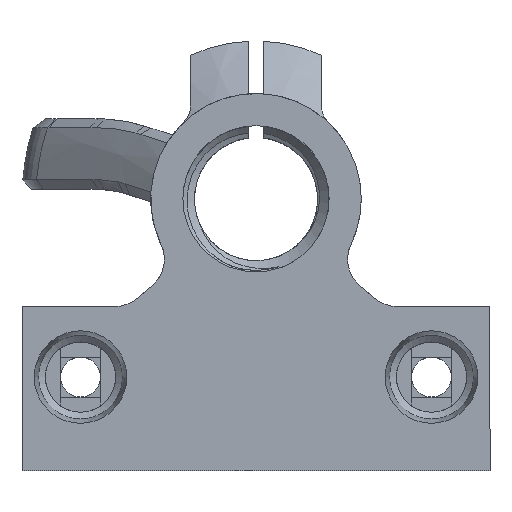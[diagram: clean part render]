
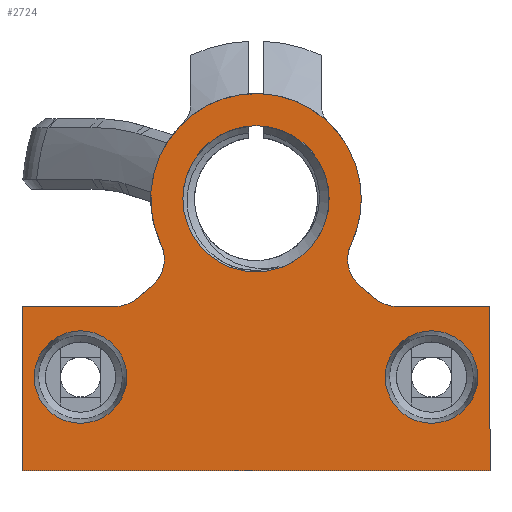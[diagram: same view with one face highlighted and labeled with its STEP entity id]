
A CAD part, top view. The second image highlights one B-rep face of the part: STEP entity #2724.
In plain terms, the highlighted planar face has unit normal (0, 0, 1).
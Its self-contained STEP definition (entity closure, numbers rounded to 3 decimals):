
#79=FACE_BOUND('',#556,.T.);
#80=FACE_BOUND('',#557,.T.);
#81=FACE_BOUND('',#558,.T.);
#275=PLANE('',#2950);
#395=FACE_OUTER_BOUND('',#555,.T.);
#555=EDGE_LOOP('',(#2347,#2348,#2349,#2350,#2351,#2352,#2353,#2354,#2355,
#2356,#2357,#2358,#2359));
#556=EDGE_LOOP('',(#2360));
#557=EDGE_LOOP('',(#2361));
#558=EDGE_LOOP('',(#2362));
#668=LINE('',#3807,#859);
#683=LINE('',#3925,#874);
#685=LINE('',#3954,#876);
#754=LINE('',#5779,#945);
#756=LINE('',#5783,#947);
#758=LINE('',#5787,#949);
#760=LINE('',#5790,#951);
#859=VECTOR('',#3187,10.);
#874=VECTOR('',#3234,10.);
#876=VECTOR('',#3242,10.);
#945=VECTOR('',#3485,10.);
#947=VECTOR('',#3489,10.);
#949=VECTOR('',#3493,10.);
#951=VECTOR('',#3497,10.);
#1002=CIRCLE('',#2805,3.952);
#1016=CIRCLE('',#2835,3.952);
#1018=CIRCLE('',#2838,3.);
#1020=CIRCLE('',#2842,3.);
#1025=CIRCLE('',#2850,9.);
#1027=CIRCLE('',#2852,9.);
#1029=CIRCLE('',#2855,3.);
#1030=CIRCLE('',#2858,3.);
#1035=CIRCLE('',#2868,6.25);
#1104=VERTEX_POINT('',#3704);
#1130=VERTEX_POINT('',#3788);
#1133=VERTEX_POINT('',#3795);
#1134=VERTEX_POINT('',#3797);
#1137=VERTEX_POINT('',#3805);
#1141=VERTEX_POINT('',#3832);
#1158=VERTEX_POINT('',#3903);
#1160=VERTEX_POINT('',#3908);
#1163=VERTEX_POINT('',#3915);
#1164=VERTEX_POINT('',#3917);
#1166=VERTEX_POINT('',#3923);
#1169=VERTEX_POINT('',#3933);
#1175=VERTEX_POINT('',#3972);
#1273=VERTEX_POINT('',#5778);
#1274=VERTEX_POINT('',#5782);
#1275=VERTEX_POINT('',#5786);
#1383=EDGE_CURVE('',#1104,#1104,#1002,.T.);
#1425=EDGE_CURVE('',#1130,#1130,#1016,.T.);
#1429=EDGE_CURVE('',#1133,#1134,#1018,.T.);
#1434=EDGE_CURVE('',#1133,#1137,#668,.T.);
#1439=EDGE_CURVE('',#1141,#1137,#1020,.T.);
#1457=EDGE_CURVE('',#1141,#1158,#1025,.T.);
#1460=EDGE_CURVE('',#1158,#1160,#1027,.T.);
#1463=EDGE_CURVE('',#1163,#1164,#1029,.T.);
#1467=EDGE_CURVE('',#1163,#1166,#683,.T.);
#1470=EDGE_CURVE('',#1169,#1160,#1030,.T.);
#1473=EDGE_CURVE('',#1169,#1164,#685,.T.);
#1483=EDGE_CURVE('',#1175,#1175,#1035,.T.);
#1641=EDGE_CURVE('',#1273,#1134,#754,.T.);
#1643=EDGE_CURVE('',#1274,#1273,#756,.T.);
#1645=EDGE_CURVE('',#1275,#1274,#758,.T.);
#1647=EDGE_CURVE('',#1166,#1275,#760,.T.);
#2347=ORIENTED_EDGE('',*,*,#1467,.T.);
#2348=ORIENTED_EDGE('',*,*,#1647,.T.);
#2349=ORIENTED_EDGE('',*,*,#1645,.T.);
#2350=ORIENTED_EDGE('',*,*,#1643,.T.);
#2351=ORIENTED_EDGE('',*,*,#1641,.T.);
#2352=ORIENTED_EDGE('',*,*,#1429,.F.);
#2353=ORIENTED_EDGE('',*,*,#1434,.T.);
#2354=ORIENTED_EDGE('',*,*,#1439,.F.);
#2355=ORIENTED_EDGE('',*,*,#1457,.T.);
#2356=ORIENTED_EDGE('',*,*,#1460,.T.);
#2357=ORIENTED_EDGE('',*,*,#1470,.F.);
#2358=ORIENTED_EDGE('',*,*,#1473,.T.);
#2359=ORIENTED_EDGE('',*,*,#1463,.F.);
#2360=ORIENTED_EDGE('',*,*,#1383,.T.);
#2361=ORIENTED_EDGE('',*,*,#1425,.T.);
#2362=ORIENTED_EDGE('',*,*,#1483,.T.);
#2724=ADVANCED_FACE('',(#395,#79,#80,#81),#275,.T.);
#2805=AXIS2_PLACEMENT_3D('',#3705,#3082,#3083);
#2835=AXIS2_PLACEMENT_3D('',#3789,#3170,#3171);
#2838=AXIS2_PLACEMENT_3D('',#3798,#3178,#3179);
#2842=AXIS2_PLACEMENT_3D('',#3834,#3191,#3192);
#2850=AXIS2_PLACEMENT_3D('',#3905,#3215,#3216);
#2852=AXIS2_PLACEMENT_3D('',#3910,#3220,#3221);
#2855=AXIS2_PLACEMENT_3D('',#3918,#3227,#3228);
#2858=AXIS2_PLACEMENT_3D('',#3935,#3238,#3239);
#2868=AXIS2_PLACEMENT_3D('',#3973,#3264,#3265);
#2950=AXIS2_PLACEMENT_3D('',#5791,#3498,#3499);
#3082=DIRECTION('center_axis',(0.,0.,-1.));
#3083=DIRECTION('ref_axis',(1.,0.,0.));
#3170=DIRECTION('center_axis',(0.,0.,-1.));
#3171=DIRECTION('ref_axis',(-1.,0.,0.));
#3178=DIRECTION('center_axis',(0.,0.,1.));
#3179=DIRECTION('ref_axis',(-0.342,-0.94,0.));
#3187=DIRECTION('',(-0.766,0.643,0.));
#3191=DIRECTION('center_axis',(0.,0.,1.));
#3192=DIRECTION('ref_axis',(-0.977,-0.212,0.));
#3215=DIRECTION('center_axis',(0.,0.,1.));
#3216=DIRECTION('ref_axis',(-1.,0.,0.));
#3220=DIRECTION('center_axis',(0.,0.,1.));
#3221=DIRECTION('ref_axis',(-1.,0.,0.));
#3227=DIRECTION('center_axis',(0.,0.,1.));
#3228=DIRECTION('ref_axis',(0.342,-0.94,0.));
#3234=DIRECTION('',(-1.,0.,0.));
#3238=DIRECTION('center_axis',(0.,0.,1.));
#3239=DIRECTION('ref_axis',(0.977,-0.212,0.));
#3242=DIRECTION('',(-0.766,-0.643,0.));
#3264=DIRECTION('center_axis',(0.,0.,-1.));
#3265=DIRECTION('ref_axis',(1.,0.,0.));
#3485=DIRECTION('',(-1.,0.,0.));
#3489=DIRECTION('',(0.,1.,0.));
#3493=DIRECTION('',(1.,0.,0.));
#3497=DIRECTION('',(0.,-1.,0.));
#3498=DIRECTION('center_axis',(0.,0.,1.));
#3499=DIRECTION('ref_axis',(-1.,0.,0.));
#3704=CARTESIAN_POINT('',(-8.952,-34.533,42.875));
#3705=CARTESIAN_POINT('Origin',(-5.,-34.533,42.875));
#3788=CARTESIAN_POINT('',(-31.048,-34.533,42.875));
#3789=CARTESIAN_POINT('Origin',(-35.,-34.533,42.875));
#3795=CARTESIAN_POINT('',(-9.872,-27.798,42.875));
#3797=CARTESIAN_POINT('',(-7.944,-28.5,42.875));
#3798=CARTESIAN_POINT('Origin',(-7.944,-25.5,42.875));
#3805=CARTESIAN_POINT('',(-11.099,-26.769,42.875));
#3807=CARTESIAN_POINT('',(-9.036,-28.5,42.875));
#3832=CARTESIAN_POINT('',(-11.878,-23.178,42.875));
#3834=CARTESIAN_POINT('Origin',(-9.171,-24.47,42.875));
#3903=CARTESIAN_POINT('',(-11.,-19.3,42.875));
#3905=CARTESIAN_POINT('Origin',(-20.,-19.3,42.875));
#3908=CARTESIAN_POINT('',(-28.122,-23.178,42.875));
#3910=CARTESIAN_POINT('Origin',(-20.,-19.3,42.875));
#3915=CARTESIAN_POINT('',(-32.056,-28.5,42.875));
#3917=CARTESIAN_POINT('',(-30.128,-27.798,42.875));
#3918=CARTESIAN_POINT('Origin',(-32.056,-25.5,42.875));
#3923=CARTESIAN_POINT('',(-40.,-28.5,42.875));
#3925=CARTESIAN_POINT('',(-30.964,-28.5,42.875));
#3933=CARTESIAN_POINT('',(-28.901,-26.769,42.875));
#3935=CARTESIAN_POINT('Origin',(-30.829,-24.47,42.875));
#3954=CARTESIAN_POINT('',(-20.,-19.3,42.875));
#3972=CARTESIAN_POINT('',(-26.25,-19.3,42.875));
#3973=CARTESIAN_POINT('Origin',(-20.,-19.3,42.875));
#5778=CARTESIAN_POINT('',(0.,-28.5,42.875));
#5779=CARTESIAN_POINT('',(0.,-28.5,42.875));
#5782=CARTESIAN_POINT('',(0.,-42.533,42.875));
#5783=CARTESIAN_POINT('',(0.,-42.533,42.875));
#5786=CARTESIAN_POINT('',(-40.,-42.533,42.875));
#5787=CARTESIAN_POINT('',(-40.,-42.533,42.875));
#5790=CARTESIAN_POINT('',(-40.,-28.5,42.875));
#5791=CARTESIAN_POINT('Origin',(-20.,-26.417,42.875));
